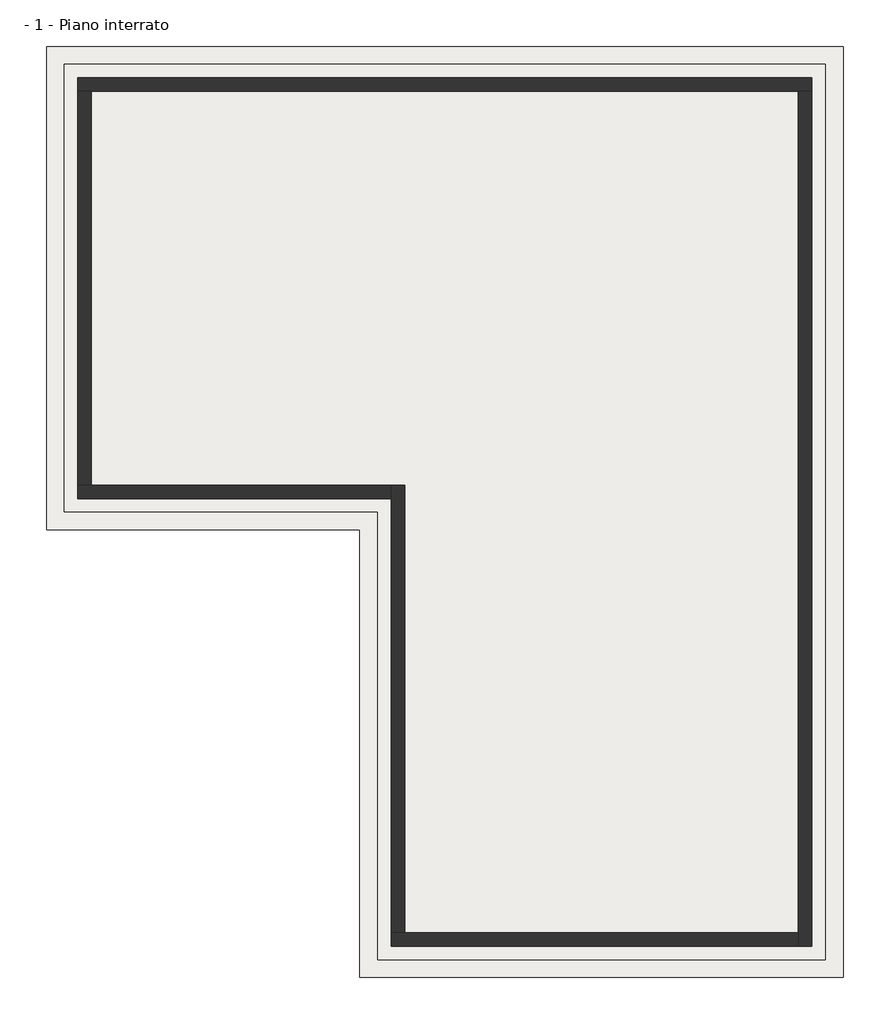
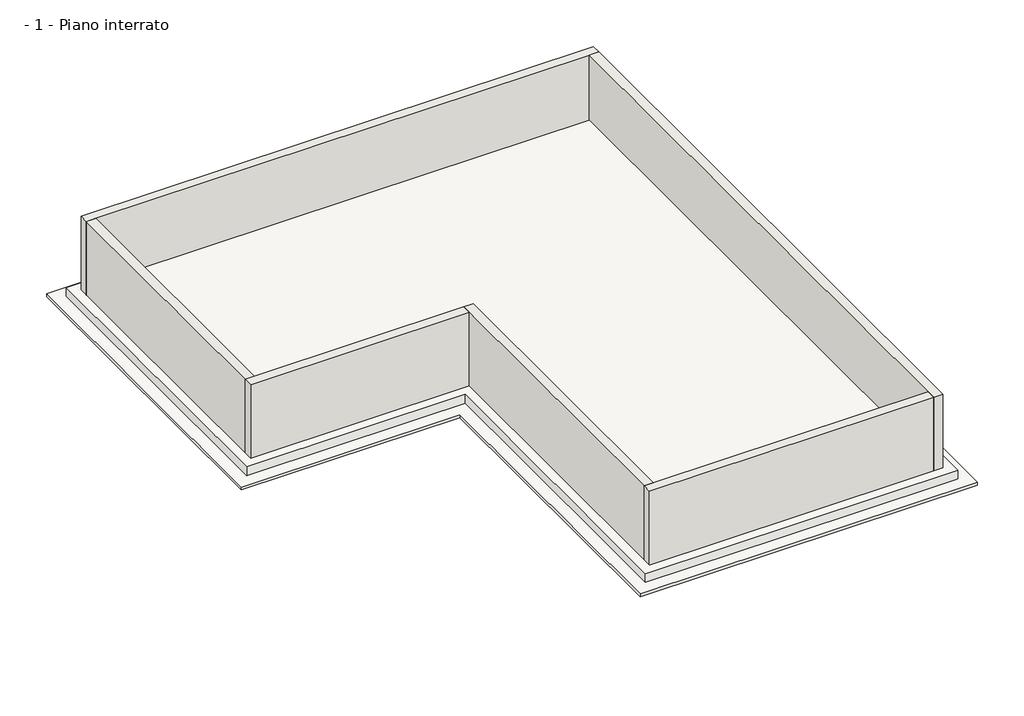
# One storey: 6 walls, 5 proxies, 3 slabs.
"""IFC4 building model written with IfcOpenShell, lengths in millimetres."""

import ifcopenshell
import ifcopenshell.guid

model = None  # the IFC model being written
_history = None  # IfcOwnerHistory: only IFC2X3 demands one
_inside = {}  # id of a spatial element -> (the spatial element, [elements in it])
_under = {}  # id of a project, library or spatial element -> (it, [spatial elements below it])
_declared = {}  # id of a project -> (the project, [libraries it declares])
_typed = {}  # id of a type object -> (the type object, [elements of that type])
_made_of = {}  # id of a material, layer set ... -> (it, [elements and type objects made of it])


def new_model(schema):
    """Start an empty IFC model of exactly this schema.

    Asked for "IFC4X3", IfcOpenShell would pick the latest addendum, in which some entities
    have other attributes; the version numbers below select the first issue.
    IFC2X3 requires an IfcOwnerHistory on every rooted entity: one is made here for all.
    """
    global model, _history
    if schema == "IFC4X3":
        model = ifcopenshell.file(schema_version=(4, 3, 0, 0))
    else:
        model = ifcopenshell.file(schema=schema)
    _inside.clear()
    _under.clear()
    _declared.clear()
    _typed.clear()
    _made_of.clear()
    _history = None
    if model.schema == "IFC2X3":
        org = make("IfcOrganization", Name="unknown")
        user = make(
            "IfcPersonAndOrganization",
            ThePerson=make("IfcPerson", FamilyName="unknown"),
            TheOrganization=org,
        )
        app = make(
            "IfcApplication",
            ApplicationDeveloper=org,
            Version="unknown",
            ApplicationFullName="unknown",
            ApplicationIdentifier="unknown",
        )
        _history = make(
            "IfcOwnerHistory",
            OwningUser=user,
            OwningApplication=app,
            ChangeAction="ADDED",
            CreationDate=0,
        )
    return model


def make(cls, **values):
    """One entity of the class cls with the attributes given. An attribute that is None is left unset."""
    return model.create_entity(
        cls, **{name: value for name, value in values.items() if value is not None}
    )


def rooted(cls, **values):
    """An entity with a GlobalId (a new one), such as an element, a storey or a relation."""
    return make(cls, GlobalId=ifcopenshell.guid.new(), OwnerHistory=_history, **values)


def si_unit(unit_type, name, prefix=None):
    """IfcSIUnit, for example si_unit("LENGTHUNIT", "METRE", prefix="MILLI")."""
    return make("IfcSIUnit", UnitType=unit_type, Prefix=prefix, Name=name)


def assignment(units):
    """IfcUnitAssignment: the units of a project."""
    return None if units is None else make("IfcUnitAssignment", Units=units)


def point(xyz):
    """IfcCartesianPoint."""
    return None if xyz is None else make("IfcCartesianPoint", Coordinates=xyz)


def direction(xyz):
    """IfcDirection."""
    return None if xyz is None else make("IfcDirection", DirectionRatios=xyz)


def frame(location, z_axis=None, x_axis=None):
    """IfcAxis2Placement3D, a coordinate frame: its origin and axes. An axis left out is left unset."""
    return make(
        "IfcAxis2Placement3D",
        Location=point(location),
        Axis=direction(z_axis),
        RefDirection=direction(x_axis),
    )


def frame_2d(location, x_axis=None):
    """IfcAxis2Placement2D, a coordinate frame in the plane: its origin and x axis."""
    return make(
        "IfcAxis2Placement2D", Location=point(location), RefDirection=direction(x_axis)
    )


def origin():
    """The frame at (0, 0, 0) with its axes left unset."""
    return frame((0.0, 0.0, 0.0))


def origin_with_axes():
    """The frame at (0, 0, 0) with the z axis (0, 0, 1) and the x axis (1, 0, 0) written out."""
    return frame((0.0, 0.0, 0.0), z_axis=(0.0, 0.0, 1.0), x_axis=(1.0, 0.0, 0.0))


def origin_2d():
    """The frame at (0, 0) in the plane with its x axis left unset."""
    return frame_2d((0.0, 0.0))


def place(relative_to, where):
    """IfcLocalPlacement: puts the frame where relative to a parent placement (None: the world)."""
    return make(
        "IfcLocalPlacement", PlacementRelTo=relative_to, RelativePlacement=where
    )


def context(
    kind, dimensions, precision=None, world=None, true_north=None, identifier=None
):
    """IfcGeometricRepresentationContext, for example the 3D "Model" context."""
    return make(
        "IfcGeometricRepresentationContext",
        ContextIdentifier=identifier,
        ContextType=kind,
        CoordinateSpaceDimension=dimensions,
        Precision=precision,
        WorldCoordinateSystem=world,
        TrueNorth=true_north,
    )


def project(units=None, contexts=None):
    """IfcProject with its units and contexts."""
    return rooted(
        "IfcProject",
        Name="project",
        RepresentationContexts=contexts,
        UnitsInContext=assignment(units),
    )


def spatial(cls, under=None, at=None, **own):
    """A site, building, storey or space (cls), placed at a placement, below another one or the project."""
    s = rooted(cls, ObjectPlacement=at, **own)
    if under is not None:
        _under.setdefault(under.id(), (under, []))[1].append(s)
    return s


def polyline(points):
    """IfcPolyline through the points."""
    return make("IfcPolyline", Points=[point(p) for p in points])


def circle_curve(where, radius):
    """IfcCircle in the frame where."""
    return make("IfcCircle", Position=where, Radius=radius)


def trimmed(basis, trim1, trim2, sense, master):
    """IfcTrimmedCurve: the piece of a basis curve between two trims."""
    return make(
        "IfcTrimmedCurve",
        BasisCurve=basis,
        Trim1=trim1,
        Trim2=trim2,
        SenseAgreement=sense,
        MasterRepresentation=master,
    )


def segment(curve, same_sense, transition):
    """IfcCompositeCurveSegment."""
    return make(
        "IfcCompositeCurveSegment",
        Transition=transition,
        SameSense=same_sense,
        ParentCurve=curve,
    )


def composite_curve(segments, self_intersect=None):
    """IfcCompositeCurve: segments joined end to end."""
    return make("IfcCompositeCurve", Segments=segments, SelfIntersect=self_intersect)


def outline(outer, holes=None, kind="AREA"):
    """IfcArbitraryClosedProfileDef: a profile drawn as a closed curve; with holes, ...WithVoids."""
    if holes is None:
        return make("IfcArbitraryClosedProfileDef", ProfileType=kind, OuterCurve=outer)
    return make(
        "IfcArbitraryProfileDefWithVoids",
        ProfileType=kind,
        OuterCurve=outer,
        InnerCurves=holes,
    )


def extrude(swept, where, along, depth):
    """IfcExtrudedAreaSolid: the profile swept, set in the frame where, extruded along a direction by depth."""
    return make(
        "IfcExtrudedAreaSolid",
        SweptArea=swept,
        Position=where,
        ExtrudedDirection=direction(along),
        Depth=depth,
    )


def faces_of(points, faces, orient=None, outer=None):
    """IfcFace entities. A face is a list of loops; a loop is a list of indices into points, from 0.

    orient and outer hold one flag for each loop. By default every Orientation is true, the
    first loop of a face is its IfcFaceOuterBound and the others are IfcFaceBound.
    """
    made = []
    for i, loops in enumerate(faces):
        bounds = []
        for j, loop in enumerate(loops):
            is_outer = j == 0 if outer is None else outer[i][j]
            bounds.append(
                make(
                    "IfcFaceOuterBound" if is_outer else "IfcFaceBound",
                    Bound=make("IfcPolyLoop", Polygon=[points[k] for k in loop]),
                    Orientation=True if orient is None else orient[i][j],
                )
            )
        made.append(make("IfcFace", Bounds=bounds))
    return made


def faceted_brep(points, faces, orient=None, outer=None, voids=None):
    """IfcFacetedBrep: a solid bounded by flat faces; with voids (closed shells), ...WithVoids."""
    shared = [point(p) for p in points]
    hull = make("IfcClosedShell", CfsFaces=faces_of(shared, faces, orient, outer))
    if voids is None:
        return make("IfcFacetedBrep", Outer=hull)
    return make(
        "IfcFacetedBrepWithVoids",
        Outer=hull,
        Voids=[
            make(cls, CfsFaces=faces_of(shared, fs, o, b)) for cls, fs, o, b in voids
        ],
    )


def shape(context_of_items, identifier, shape_type, items):
    """IfcShapeRepresentation: the items that make up one representation, for example the "Body"."""
    return make(
        "IfcShapeRepresentation",
        ContextOfItems=context_of_items,
        RepresentationIdentifier=identifier,
        RepresentationType=shape_type,
        Items=items,
    )


def source(mapping_origin, context_of_items, identifier, shape_type, items):
    """IfcRepresentationMap: a shape defined once, which mapped items show again and again."""
    return make(
        "IfcRepresentationMap",
        MappingOrigin=mapping_origin,
        MappedRepresentation=shape(context_of_items, identifier, shape_type, items),
    )


def transform(
    local_origin,
    x_axis=None,
    y_axis=None,
    z_axis=None,
    scale=None,
    scale2=None,
    scale3=None,
    uniform=True,
):
    """IfcCartesianTransformationOperator3D, or its non-uniform kind. x_axis, y_axis, z_axis: its Axis1, 2, 3."""
    if uniform:
        return make(
            "IfcCartesianTransformationOperator3D",
            Axis1=direction(x_axis),
            Axis2=direction(y_axis),
            LocalOrigin=point(local_origin),
            Scale=scale,
            Axis3=direction(z_axis),
        )
    return make(
        "IfcCartesianTransformationOperator3DnonUniform",
        Axis1=direction(x_axis),
        Axis2=direction(y_axis),
        LocalOrigin=point(local_origin),
        Scale=scale,
        Axis3=direction(z_axis),
        Scale2=scale2,
        Scale3=scale3,
    )


def mapped(mapping_source, mapping_target):
    """IfcMappedItem: shows the shape of a source again, moved by a transform."""
    return make(
        "IfcMappedItem", MappingSource=mapping_source, MappingTarget=mapping_target
    )


def made_of(thing, what):
    """Note that an element or type object is made of a material, layer set ...; save() writes the relation."""
    if what is not None:
        _made_of.setdefault(what.id(), (what, []))[1].append(thing)
    return thing


def element(
    cls,
    number,
    at=None,
    inside=None,
    cuts=None,
    type_object=None,
    material=None,
    context=None,
    identifier="Body",
    shape_type=None,
    held_by="IfcProductDefinitionShape",
    body=None,
    shapes=None,
    **own,
):
    """One element of the class cls, such as IfcWall. Its Tag is "e" and its number.

    at: its placement. inside: the storey or other place that contains it. cuts: it is an
    opening in that element (IfcRelVoidsElement). A single representation is given by context,
    identifier, shape_type and body (its items); several are given by shapes. held_by: the class
    of the entity that holds the representations. save() writes the other relations.
    """
    e = rooted(cls, Tag="e%d" % number, ObjectPlacement=at, **own)
    if body is not None:
        shapes = [shape(context, identifier, shape_type, body)]
    if shapes is not None:
        e.Representation = make(held_by, Representations=shapes)
    if inside is not None:
        _inside.setdefault(inside.id(), (inside, []))[1].append(e)
    if cuts is not None:
        rooted(
            "IfcRelVoidsElement", RelatingBuildingElement=cuts, RelatedOpeningElement=e
        )
    if type_object is not None:
        _typed.setdefault(type_object.id(), (type_object, []))[1].append(e)
    return made_of(e, material)


def aggregate(whole, parts):
    """IfcRelAggregates: a whole, such as a stair, and the parts it consists of."""
    return rooted("IfcRelAggregates", RelatingObject=whole, RelatedObjects=parts)


def save(model, path):
    """Write the relations noted so far, then the file.

    IfcRelAggregates (storeys below a building ...), IfcRelContainedInSpatialStructure (elements
    in a storey), IfcRelDefinesByType, IfcRelAssociatesMaterial and IfcRelDeclares: one each for
    every whole, place, type object, material and project.
    """
    for whole, parts in _under.values():
        aggregate(whole, parts)
    for where, things in _inside.values():
        rooted(
            "IfcRelContainedInSpatialStructure",
            RelatedElements=things,
            RelatingStructure=where,
        )
    for kind, things in _typed.values():
        rooted("IfcRelDefinesByType", RelatedObjects=things, RelatingType=kind)
    for what, things in _made_of.values():
        rooted("IfcRelAssociatesMaterial", RelatedObjects=things, RelatingMaterial=what)
    for by, libraries in _declared.values():
        rooted("IfcRelDeclares", RelatingContext=by, RelatedDefinitions=libraries)
    model.write(path)


def generic_models_3b7ed561(model_context):
    return source(origin(), model_context, "Body", "SweptSolid", [
        extrude(outline(composite_curve([segment(trimmed(circle_curve(origin_2d(), 5.0), [point((-5.0, 0.0))], [point((5.0, 0.0))], False, "CARTESIAN"), True, "CONTINUOUS"), segment(trimmed(circle_curve(origin_2d(), 5.0), [point((5.0, 0.0))], [point((-5.0, 0.0))], False, "CARTESIAN"), True, "CONTINUOUS")], self_intersect=False)), origin_with_axes(), (0.0, 0.0, 1.0), 200.0),
    ])


model = new_model("IFC4")

# Units and contexts
model_context = context("Model", 3, world=origin())
ifc_project = project(units=[si_unit("LENGTHUNIT", "METRE", prefix="MILLI")], contexts=[model_context])

# Site, building, storey
site = spatial("IfcSite", under=ifc_project)
building = spatial("IfcBuilding", under=site)
storey = spatial("IfcBuildingStorey", under=building, Name="- 1 - Piano interrato", Elevation=-2500.0)

# Proxies
placement = place(None, origin())
element("IfcBuildingElementProxy", 1, Name="PLASTIVO 250 VOLTECO horizontal strip", ObjectType="PLASTIVO 250 VOLTECO horizontal strip", at=placement, inside=storey, context=model_context, shape_type="SweptSolid", body=[
    extrude(outline(polyline([(-5327.8968209, 428.648913), (-5527.8968209, 228.648913), (-5527.8968209, 9028.648913), (-5327.8968209, 8828.648913), (-5327.8968209, 428.648913)])), frame((0.0, 0.0, -2501.0), z_axis=(0.0, 0.0, 1.0), x_axis=(1.0, 0.0, 0.0)), (0.0, 0.0, 1.0), 1.0),
    extrude(outline(polyline([(-5327.8968209, 8828.648913), (-5527.8968209, 9028.648913), (10272.1031791, 9028.648913), (10072.1031791, 8828.648913), (-5327.8968209, 8828.648913)])), frame((0.0, 0.0, -2501.0), z_axis=(0.0, 0.0, 1.0), x_axis=(1.0, 0.0, 0.0)), (0.0, 0.0, 1.0), 1.0),
    extrude(outline(polyline([(10072.1031791, 8828.648913), (10272.1031791, 9028.648913), (10272.1031791, -9771.351087), (10072.1031791, -9571.351087), (10072.1031791, 8828.648913)])), frame((0.0, 0.0, -2501.0), z_axis=(0.0, 0.0, 1.0), x_axis=(1.0, 0.0, 0.0)), (0.0, 0.0, 1.0), 1.0),
    extrude(outline(polyline([(10072.1031791, -9571.351087), (10272.1031791, -9771.351087), (1472.1031791, -9771.351087), (1672.1031791, -9571.351087), (10072.1031791, -9571.351087)])), frame((0.0, 0.0, -2501.0), z_axis=(0.0, 0.0, 1.0), x_axis=(1.0, 0.0, 0.0)), (0.0, 0.0, 1.0), 1.0),
    extrude(outline(polyline([(1672.1031791, -9571.351087), (1472.1031791, -9771.351087), (1472.1031791, 228.648913), (1672.1031791, 428.648913), (1672.1031791, -9571.351087)])), frame((0.0, 0.0, -2501.0), z_axis=(0.0, 0.0, 1.0), x_axis=(1.0, 0.0, 0.0)), (0.0, 0.0, 1.0), 1.0),
    extrude(outline(polyline([(1672.1031791, 428.648913), (1472.1031791, 228.648913), (-5527.8968209, 228.648913), (-5327.8968209, 428.648913), (1672.1031791, 428.648913)])), frame((0.0, 0.0, -2501.0), z_axis=(0.0, 0.0, 1.0), x_axis=(1.0, 0.0, 0.0)), (0.0, 0.0, 1.0), 1.0),
])
element("IfcBuildingElementProxy", 2, Name="AKTI-VO 201 VOLTECO all along the corners", ObjectType="AKTI-VO 201 VOLTECO all along the corners", at=placement, inside=storey, context=model_context, shape_type="SweptSolid", body=[
    extrude(outline(polyline([(10262.1031791, 9018.648913), (10272.1031791, 9028.648913), (10272.1031791, -9771.351087), (10262.1031791, -9761.351087), (10262.1031791, 9018.648913)])), frame((0.0, 0.0, -2500.0), z_axis=(0.0, 0.0, 1.0), x_axis=(1.0, 0.0, 0.0)), (0.0, 0.0, 1.0), 10.0),
    extrude(outline(polyline([(-5517.8968209, 9018.648913), (-5527.8968209, 9028.648913), (10272.1031791, 9028.648913), (10262.1031791, 9018.648913), (-5517.8968209, 9018.648913)])), frame((0.0, 0.0, -2500.0), z_axis=(0.0, 0.0, 1.0), x_axis=(1.0, 0.0, 0.0)), (0.0, 0.0, 1.0), 10.0),
    extrude(outline(polyline([(-5517.8968209, 238.648913), (-5527.8968209, 228.648913), (-5527.8968209, 9028.648913), (-5517.8968209, 9018.648913), (-5517.8968209, 238.648913)])), frame((0.0, 0.0, -2500.0), z_axis=(0.0, 0.0, 1.0), x_axis=(1.0, 0.0, 0.0)), (0.0, 0.0, 1.0), 10.0),
    extrude(outline(polyline([(1482.1031791, 238.648913), (1472.1031791, 228.648913), (-5527.8968209, 228.648913), (-5517.8968209, 238.648913), (1482.1031791, 238.648913)])), frame((0.0, 0.0, -2500.0), z_axis=(0.0, 0.0, 1.0), x_axis=(1.0, 0.0, 0.0)), (0.0, 0.0, 1.0), 10.0),
    extrude(outline(polyline([(1482.1031791, -9761.351087), (1472.1031791, -9771.351087), (1472.1031791, 228.648913), (1482.1031791, 238.648913), (1482.1031791, -9761.351087)])), frame((0.0, 0.0, -2500.0), z_axis=(0.0, 0.0, 1.0), x_axis=(1.0, 0.0, 0.0)), (0.0, 0.0, 1.0), 10.0),
    extrude(outline(polyline([(10262.1031791, -9761.351087), (10272.1031791, -9771.351087), (1472.1031791, -9771.351087), (1482.1031791, -9761.351087), (10262.1031791, -9761.351087)])), frame((0.0, 0.0, -2500.0), z_axis=(0.0, 0.0, 1.0), x_axis=(1.0, 0.0, 0.0)), (0.0, 0.0, 1.0), 10.0),
])
element("IfcBuildingElementProxy", 3, Name="WT 102 VOLTECO all along the corners", ObjectType="WT 102 VOLTECO all along the corners", at=placement, inside=storey, context=model_context, shape_type="SweptSolid", body=[
    extrude(outline(polyline([(-5507.8968209, 9008.648913), (-5527.8968209, 9028.648913), (10272.1031791, 9028.648913), (10252.1031791, 9008.648913), (-5507.8968209, 9008.648913)])), frame((0.0, 0.0, -2490.0), z_axis=(0.0, 0.0, 1.0), x_axis=(1.0, 0.0, 0.0)), (0.0, 0.0, 1.0), 20.0),
    extrude(outline(polyline([(10252.1031791, 9008.648913), (10272.1031791, 9028.648913), (10272.1031791, -9771.351087), (10252.1031791, -9751.351087), (10252.1031791, 9008.648913)])), frame((0.0, 0.0, -2490.0), z_axis=(0.0, 0.0, 1.0), x_axis=(1.0, 0.0, 0.0)), (0.0, 0.0, 1.0), 20.0),
    extrude(outline(polyline([(10252.1031791, -9751.351087), (10272.1031791, -9771.351087), (1472.1031791, -9771.351087), (1492.1031791, -9751.351087), (10252.1031791, -9751.351087)])), frame((0.0, 0.0, -2490.0), z_axis=(0.0, 0.0, 1.0), x_axis=(1.0, 0.0, 0.0)), (0.0, 0.0, 1.0), 20.0),
    extrude(outline(polyline([(1492.1031791, -9751.351087), (1472.1031791, -9771.351087), (1472.1031791, 228.648913), (1492.1031791, 248.648913), (1492.1031791, -9751.351087)])), frame((0.0, 0.0, -2490.0), z_axis=(0.0, 0.0, 1.0), x_axis=(1.0, 0.0, 0.0)), (0.0, 0.0, 1.0), 20.0),
    extrude(outline(polyline([(1492.1031791, 248.648913), (1472.1031791, 228.648913), (-5527.8968209, 228.648913), (-5507.8968209, 248.648913), (1492.1031791, 248.648913)])), frame((0.0, 0.0, -2490.0), z_axis=(0.0, 0.0, 1.0), x_axis=(1.0, 0.0, 0.0)), (0.0, 0.0, 1.0), 20.0),
    extrude(outline(polyline([(-5507.8968209, 248.648913), (-5527.8968209, 228.648913), (-5527.8968209, 9028.648913), (-5507.8968209, 9008.648913), (-5507.8968209, 248.648913)])), frame((0.0, 0.0, -2490.0), z_axis=(0.0, 0.0, 1.0), x_axis=(1.0, 0.0, 0.0)), (0.0, 0.0, 1.0), 20.0),
])
generic_models_shape = generic_models_3b7ed561(model_context)
element("IfcBuildingElementProxy", 4, Name="ENG-Connectors installed in horizontal structure sealed with AKTI-VO 201 : ENG-Connectors installed in horizontal structure sealed with AKTI-VO 201", ObjectType="ENG-Connectors installed in horizontal structure sealed with AKTI-VO 201 : ENG-Connectors installed in horizontal structure sealed with AKTI-VO 201", at=placement, inside=storey, context=model_context, shape_type="MappedRepresentation", body=[
    mapped(generic_models_shape, transform((-5130.8968209, 8588.648913, -2500.0), x_axis=(0.0, -1.0, 0.0), y_axis=(1.0, 0.0, 0.0), z_axis=(0.0, 0.0, 1.0))),
])
element("IfcBuildingElementProxy", 5, Name="ENG-Connectors installed in vertical walls sealed with AKTI-VO 201 : ENG-Connectors installed in vertical walls sealed with AKTI-VO 201", ObjectType="ENG-Connectors installed in vertical walls sealed with AKTI-VO 201 : ENG-Connectors installed in vertical walls sealed with AKTI-VO 201", at=placement, inside=storey, context=model_context, shape_type="MappedRepresentation", body=[
    mapped(generic_models_shape, transform((-5189.8968209, 9028.648913, -2396.8315717), x_axis=(1.0, 0.0, 0.0), y_axis=(0.0, 0.0, 1.0), z_axis=(0.0, -1.0, 0.0))),
])

# Slabs
element("IfcSlab", 6, ObjectType="Blinding concrete", at=placement, inside=storey, context=model_context, shape_type="SweptSolid", body=[
    extrude(outline(polyline([(-6527.8968209, 10028.648913), (11272.1031791, 10028.648913), (11272.1031791, -10771.351087), (472.1031791, -10771.351087), (472.1031791, -771.351087), (-6527.8968209, -771.351087), (-6527.8968209, 10028.648913)])), frame((0.0, 0.0, -2900.0), z_axis=(0.0, 0.0, 1.0), x_axis=(1.0, 0.0, 0.0)), (0.0, 0.0, 1.0), 100.0),
])
element("IfcSlab", 7, ObjectType="Raft foundation", at=placement, inside=storey, context=model_context, shape_type="SweptSolid", body=[
    extrude(outline(polyline([(-6127.8968209, -371.351087), (-6127.8968209, 9628.648913), (10872.1031791, 9628.648913), (10872.1031791, -10371.351087), (872.1031791, -10371.351087), (872.1031791, -371.351087), (-6127.8968209, -371.351087)])), frame((0.0, 0.0, -2800.0), z_axis=(0.0, 0.0, 1.0), x_axis=(1.0, 0.0, 0.0)), (0.0, 0.0, 1.0), 300.0),
])
element("IfcSlab", 8, ObjectType="Raft foundation", at=placement, inside=storey, context=model_context, shape_type="SweptSolid", body=[
    extrude(outline(polyline([(10272.1031791, 9028.648913), (10272.1031791, -9771.351087), (1472.1031791, -9771.351087), (1472.1031791, 228.648913), (-5527.8968209, 228.648913), (-5527.8968209, 9028.648913), (10272.1031791, 9028.648913)])), frame((0.0, 0.0, -2500.0), z_axis=(0.0, 0.0, 1.0), x_axis=(1.0, 0.0, 0.0)), (0.0, 0.0, 1.0), 300.0),
])

# Walls
element("IfcWall", 9, ObjectType="RC Wall", at=placement, inside=storey, context=model_context, shape_type="Brep", body=[
    faceted_brep([(-5827.8968209, 9028.648913, -2500.0), (-5527.8968209, 9028.648913, -2500.0), (10272.1031791, 9028.648913, -2500.0), (10572.1031791, 9028.648913, -2500.0), (10572.1031791, 9028.648913, 0.0), (10272.1031791, 9028.648913, 0.0), (-5527.8968209, 9028.648913, 0.0), (-5827.8968209, 9028.648913, 0.0), (-5827.8968209, 9328.648913, -2500.0), (-5827.8968209, 9328.648913, 0.0), (10572.1031791, 9328.648913, 0.0), (10572.1031791, 9328.648913, -2500.0)], [[[0, 1, 2, 3, 4, 5, 6, 7]], [[8, 9, 10, 11]], [[3, 2, 1, 0, 8, 11]], [[7, 6, 5, 4, 10, 9]], [[4, 3, 11, 10]], [[0, 7, 9, 8]]]),
])
element("IfcWall", 10, ObjectType="RC Wall", at=placement, inside=storey, context=model_context, shape_type="Brep", body=[
    faceted_brep([(10272.1031791, 9028.648913, -2500.0), (10272.1031791, -9771.351087, -2500.0), (10272.1031791, -10071.351087, -2500.0), (10272.1031791, -10071.351087, 0.0), (10272.1031791, -9771.351087, 0.0), (10272.1031791, 9028.648913, 0.0), (10572.1031791, 9028.648913, -2500.0), (10572.1031791, 9028.648913, 0.0), (10572.1031791, -10071.351087, 0.0), (10572.1031791, -10071.351087, -2500.0)], [[[0, 1, 2, 3, 4, 5]], [[6, 7, 8, 9]], [[2, 1, 0, 6, 9]], [[5, 4, 3, 8, 7]], [[0, 5, 7, 6]], [[3, 2, 9, 8]]]),
])
element("IfcWall", 11, ObjectType="RC Wall", at=placement, inside=storey, context=model_context, shape_type="Brep", body=[
    faceted_brep([(10272.1031791, -9771.351087, -2500.0), (1472.1031791, -9771.351087, -2500.0), (1172.1031791, -9771.351087, -2500.0), (1172.1031791, -9771.351087, 0.0), (1472.1031791, -9771.351087, 0.0), (10272.1031791, -9771.351087, 0.0), (10272.1031791, -10071.351087, -2500.0), (10272.1031791, -10071.351087, 0.0), (1172.1031791, -10071.351087, 0.0), (1172.1031791, -10071.351087, -2500.0)], [[[0, 1, 2, 3, 4, 5]], [[6, 7, 8, 9]], [[2, 1, 0, 6, 9]], [[5, 4, 3, 8, 7]], [[0, 5, 7, 6]], [[3, 2, 9, 8]]]),
])
element("IfcWall", 12, ObjectType="RC Wall", at=placement, inside=storey, context=model_context, shape_type="Brep", body=[
    faceted_brep([(1472.1031791, -9771.351087, -2500.0), (1472.1031791, 228.648913, -2500.0), (1472.1031791, 228.648913, -2490.0), (1472.1031791, 228.648913, -2470.0), (1472.1031791, 228.648913, 0.0), (1472.1031791, -9771.351087, 0.0), (1472.1031791, -9771.351087, -2470.0), (1472.1031791, -9771.351087, -2490.0), (1172.1031791, 228.648913, -2500.0), (1172.1031791, -71.351087, -2500.0), (1172.1031791, -9771.351087, -2500.0), (1172.1031791, -9771.351087, 0.0), (1172.1031791, -71.351087, 0.0), (1172.1031791, 228.648913, 0.0), (1172.1031791, 228.648913, -2470.0), (1172.1031791, 228.648913, -2490.0)], [[[0, 1, 2, 3, 4, 5, 6, 7]], [[8, 9, 10, 11, 12, 13, 14, 15]], [[1, 0, 10, 9, 8]], [[5, 4, 13, 12, 11]], [[5, 11, 10, 0, 7, 6]], [[1, 8, 15, 14, 13, 4, 3, 2]]]),
])
element("IfcWall", 13, ObjectType="RC Wall", at=placement, inside=storey, context=model_context, shape_type="Brep", body=[
    faceted_brep([(-5827.8968209, 228.648913, 0.0), (-5527.8968209, 228.648913, 0.0), (1172.1031791, 228.648913, 0.0), (1172.1031791, 228.648913, -2480.0), (1172.1031791, 228.648913, -2490.0), (1172.1031791, 228.648913, -2500.0), (-5527.8968209, 228.648913, -2500.0), (-5827.8968209, 228.648913, -2500.0), (-5827.8968209, -71.351087, -2500.0), (1172.1031791, -71.351087, -2500.0), (1172.1031791, -71.351087, 0.0), (-5827.8968209, -71.351087, 0.0)], [[[0, 1, 2, 3, 4, 5, 6, 7]], [[8, 9, 10, 11]], [[9, 8, 7, 6, 5]], [[2, 1, 0, 11, 10]], [[2, 10, 9, 5, 4, 3]], [[0, 7, 8, 11]]]),
])
element("IfcWall", 14, ObjectType="RC Wall", at=placement, inside=storey, context=model_context, shape_type="SweptSolid", body=[
    extrude(outline(polyline([(-5527.8968209, 9028.648913), (-5527.8968209, 228.648913), (-5827.8968209, 228.648913), (-5827.8968209, 9028.648913), (-5527.8968209, 9028.648913)])), frame((0.0, 0.0, -2500.0), z_axis=(0.0, 0.0, 1.0), x_axis=(1.0, 0.0, 0.0)), (0.0, 0.0, 1.0), 2500.0),
])

save(model, "model.ifc")
